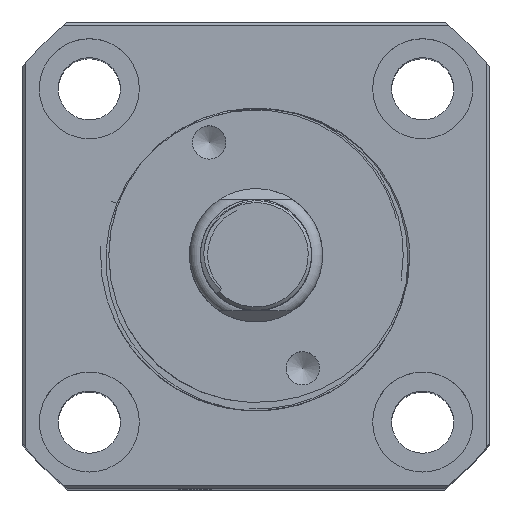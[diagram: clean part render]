
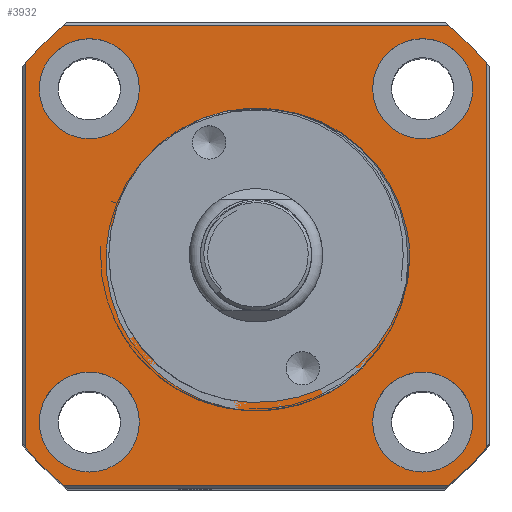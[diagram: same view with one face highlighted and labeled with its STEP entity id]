
A CAD part, top view. The second image highlights one B-rep face of the part: STEP entity #3932.
In plain terms, the highlighted planar face has unit normal (0, 0, 1).
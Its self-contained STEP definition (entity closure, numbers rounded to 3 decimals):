
#3542=B_SPLINE_CURVE_WITH_KNOTS('',3,(#16036,#16037,#16038,#16039,#16040,
#16041),.UNSPECIFIED.,.F.,.F.,(4,2,4),(0.,0.5,1.),.UNSPECIFIED.);
#3543=B_SPLINE_CURVE_WITH_KNOTS('',3,(#16043,#16044,#16045,#16046,#16047,
#16048),.UNSPECIFIED.,.F.,.F.,(4,2,4),(0.,0.5,1.),.UNSPECIFIED.);
#3932=ADVANCED_FACE('',(#4790,#4791,#4792,#4793,#4794,#4795),#4421,.T.);
#4421=PLANE('',#12857);
#4790=FACE_BOUND('',#4993,.T.);
#4791=FACE_BOUND('',#4994,.T.);
#4792=FACE_BOUND('',#4995,.T.);
#4793=FACE_BOUND('',#4996,.T.);
#4794=FACE_BOUND('',#4997,.T.);
#4795=FACE_BOUND('',#4998,.T.);
#4993=EDGE_LOOP('',(#7596));
#4994=EDGE_LOOP('',(#7597));
#4995=EDGE_LOOP('',(#7598));
#4996=EDGE_LOOP('',(#7599));
#4997=EDGE_LOOP('',(#7600,#7601,#7602));
#4998=EDGE_LOOP('',(#7603,#7604,#7605,#7606,#7607,#7608,#7609,#7610));
#5582=LINE('',#16049,#6489);
#5583=LINE('',#16054,#6490);
#5584=LINE('',#16058,#6491);
#5585=LINE('',#16062,#6492);
#6489=VECTOR('',#13411,1.);
#6490=VECTOR('',#13414,1.);
#6491=VECTOR('',#13417,1.);
#6492=VECTOR('',#13420,1.);
#7596=ORIENTED_EDGE('',*,*,#11327,.F.);
#7597=ORIENTED_EDGE('',*,*,#11329,.F.);
#7598=ORIENTED_EDGE('',*,*,#11331,.F.);
#7599=ORIENTED_EDGE('',*,*,#11333,.F.);
#7600=ORIENTED_EDGE('',*,*,#11363,.F.);
#7601=ORIENTED_EDGE('',*,*,#11385,.T.);
#7602=ORIENTED_EDGE('',*,*,#11386,.T.);
#7603=ORIENTED_EDGE('',*,*,#11387,.T.);
#7604=ORIENTED_EDGE('',*,*,#11388,.T.);
#7605=ORIENTED_EDGE('',*,*,#11389,.T.);
#7606=ORIENTED_EDGE('',*,*,#11390,.T.);
#7607=ORIENTED_EDGE('',*,*,#11391,.T.);
#7608=ORIENTED_EDGE('',*,*,#11392,.T.);
#7609=ORIENTED_EDGE('',*,*,#11393,.T.);
#7610=ORIENTED_EDGE('',*,*,#11394,.T.);
#10330=VERTEX_POINT('',#15610);
#10332=VERTEX_POINT('',#15615);
#10334=VERTEX_POINT('',#15620);
#10336=VERTEX_POINT('',#15625);
#10366=VERTEX_POINT('',#15843);
#10367=VERTEX_POINT('',#15845);
#10388=VERTEX_POINT('',#16042);
#10389=VERTEX_POINT('',#16050);
#10390=VERTEX_POINT('',#16051);
#10391=VERTEX_POINT('',#16053);
#10392=VERTEX_POINT('',#16055);
#10393=VERTEX_POINT('',#16057);
#10394=VERTEX_POINT('',#16059);
#10395=VERTEX_POINT('',#16061);
#10396=VERTEX_POINT('',#16063);
#11327=EDGE_CURVE('',#10330,#10330,#12714,.T.);
#11329=EDGE_CURVE('',#10332,#10332,#12716,.T.);
#11331=EDGE_CURVE('',#10334,#10334,#12718,.T.);
#11333=EDGE_CURVE('',#10336,#10336,#12720,.T.);
#11363=EDGE_CURVE('',#10366,#10367,#12730,.T.);
#11385=EDGE_CURVE('',#10366,#10388,#3542,.T.);
#11386=EDGE_CURVE('',#10388,#10367,#3543,.T.);
#11387=EDGE_CURVE('',#10389,#10390,#5582,.T.);
#11388=EDGE_CURVE('',#10390,#10391,#12732,.T.);
#11389=EDGE_CURVE('',#10391,#10392,#5583,.T.);
#11390=EDGE_CURVE('',#10392,#10393,#12733,.T.);
#11391=EDGE_CURVE('',#10393,#10394,#5584,.T.);
#11392=EDGE_CURVE('',#10394,#10395,#12734,.T.);
#11393=EDGE_CURVE('',#10395,#10396,#5585,.T.);
#11394=EDGE_CURVE('',#10396,#10389,#12735,.T.);
#12714=CIRCLE('',#12826,4.5);
#12716=CIRCLE('',#12829,4.5);
#12718=CIRCLE('',#12832,4.5);
#12720=CIRCLE('',#12835,4.5);
#12730=CIRCLE('',#12850,13.25);
#12732=CIRCLE('',#12853,27.);
#12733=CIRCLE('',#12854,27.);
#12734=CIRCLE('',#12855,27.);
#12735=CIRCLE('',#12856,27.);
#12826=AXIS2_PLACEMENT_3D('',#15609,#13356,#13357);
#12829=AXIS2_PLACEMENT_3D('',#15614,#13362,#13363);
#12832=AXIS2_PLACEMENT_3D('',#15619,#13368,#13369);
#12835=AXIS2_PLACEMENT_3D('',#15624,#13374,#13375);
#12850=AXIS2_PLACEMENT_3D('',#15844,#13404,#13405);
#12853=AXIS2_PLACEMENT_3D('',#16052,#13412,#13413);
#12854=AXIS2_PLACEMENT_3D('',#16056,#13415,#13416);
#12855=AXIS2_PLACEMENT_3D('',#16060,#13418,#13419);
#12856=AXIS2_PLACEMENT_3D('',#16064,#13421,#13422);
#12857=AXIS2_PLACEMENT_3D('',#16065,#13423,#13424);
#13356=DIRECTION('',(0.,0.,1.));
#13357=DIRECTION('',(1.,0.,0.));
#13362=DIRECTION('',(0.,0.,1.));
#13363=DIRECTION('',(1.,0.,0.));
#13368=DIRECTION('',(0.,0.,1.));
#13369=DIRECTION('',(1.,0.,0.));
#13374=DIRECTION('',(0.,0.,1.));
#13375=DIRECTION('',(1.,0.,0.));
#13404=DIRECTION('',(0.,0.,1.));
#13405=DIRECTION('',(1.,0.,0.));
#13411=DIRECTION('',(0.,1.,0.));
#13412=DIRECTION('',(0.,0.,1.));
#13413=DIRECTION('',(1.,0.,0.));
#13414=DIRECTION('',(-1.,0.,0.));
#13415=DIRECTION('',(0.,0.,1.));
#13416=DIRECTION('',(1.,0.,0.));
#13417=DIRECTION('',(0.,-1.,0.));
#13418=DIRECTION('',(0.,0.,1.));
#13419=DIRECTION('',(1.,0.,0.));
#13420=DIRECTION('',(1.,0.,0.));
#13421=DIRECTION('',(0.,0.,1.));
#13422=DIRECTION('',(1.,0.,0.));
#13423=DIRECTION('',(0.,0.,1.));
#13424=DIRECTION('',(-1.,0.,0.));
#15609=CARTESIAN_POINT('',(-114.831,2.433,74.621));
#15610=CARTESIAN_POINT('',(-110.331,2.433,74.621));
#15614=CARTESIAN_POINT('',(-84.831,2.433,74.621));
#15615=CARTESIAN_POINT('',(-80.331,2.433,74.621));
#15619=CARTESIAN_POINT('',(-84.831,32.433,74.621));
#15620=CARTESIAN_POINT('',(-80.331,32.433,74.621));
#15624=CARTESIAN_POINT('',(-114.831,32.433,74.621));
#15625=CARTESIAN_POINT('',(-110.331,32.433,74.621));
#15843=CARTESIAN_POINT('',(-98.102,30.57,74.621));
#15844=CARTESIAN_POINT('',(-99.831,17.433,74.621));
#15845=CARTESIAN_POINT('',(-98.102,4.297,74.621));
#16036=CARTESIAN_POINT('',(-98.102,30.57,74.621));
#16037=CARTESIAN_POINT('',(-94.839,30.243,74.621));
#16038=CARTESIAN_POINT('',(-91.757,28.672,74.621));
#16039=CARTESIAN_POINT('',(-87.387,23.903,74.621));
#16040=CARTESIAN_POINT('',(-86.076,20.71,74.621));
#16041=CARTESIAN_POINT('',(-85.984,17.433,74.621));
#16042=CARTESIAN_POINT('',(-85.984,17.433,74.621));
#16043=CARTESIAN_POINT('',(-85.984,17.433,74.621));
#16044=CARTESIAN_POINT('',(-86.076,14.156,74.621));
#16045=CARTESIAN_POINT('',(-87.388,10.962,74.621));
#16046=CARTESIAN_POINT('',(-91.757,6.195,74.621));
#16047=CARTESIAN_POINT('',(-94.838,4.624,74.621));
#16048=CARTESIAN_POINT('',(-98.102,4.297,74.621));
#16049=CARTESIAN_POINT('',(-79.131,38.433,74.621));
#16050=CARTESIAN_POINT('',(-79.131,0.098,74.621));
#16051=CARTESIAN_POINT('',(-79.131,34.769,74.621));
#16052=CARTESIAN_POINT('',(-99.831,17.433,74.621));
#16053=CARTESIAN_POINT('',(-82.495,38.133,74.621));
#16054=CARTESIAN_POINT('',(-120.831,38.133,74.621));
#16055=CARTESIAN_POINT('',(-117.166,38.133,74.621));
#16056=CARTESIAN_POINT('',(-99.831,17.433,74.621));
#16057=CARTESIAN_POINT('',(-120.531,34.769,74.621));
#16058=CARTESIAN_POINT('',(-120.531,-3.567,74.621));
#16059=CARTESIAN_POINT('',(-120.531,0.098,74.621));
#16060=CARTESIAN_POINT('',(-99.831,17.433,74.621));
#16061=CARTESIAN_POINT('',(-117.166,-3.267,74.621));
#16062=CARTESIAN_POINT('',(-78.831,-3.267,74.621));
#16063=CARTESIAN_POINT('',(-82.495,-3.267,74.621));
#16064=CARTESIAN_POINT('',(-99.831,17.433,74.621));
#16065=CARTESIAN_POINT('',(-99.831,17.433,74.621));
